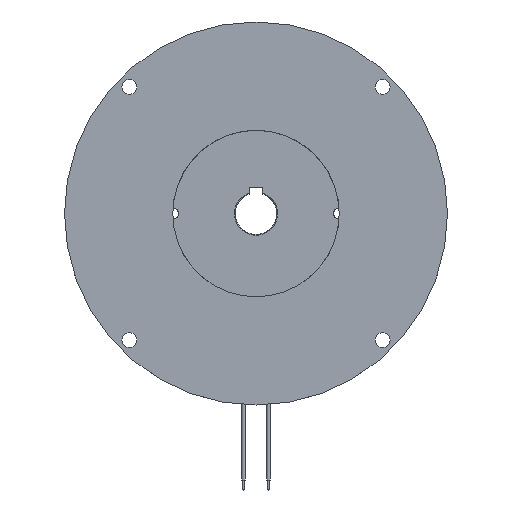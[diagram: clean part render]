
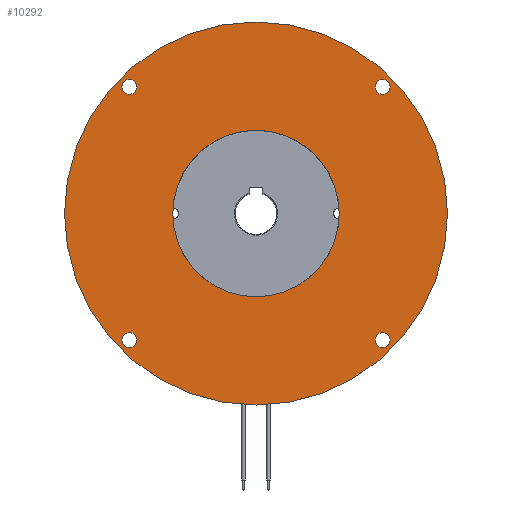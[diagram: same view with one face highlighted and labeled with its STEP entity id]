
A CAD part, top view. The second image highlights one B-rep face of the part: STEP entity #10292.
In plain terms, the highlighted planar face has unit normal (0, 0, 1).
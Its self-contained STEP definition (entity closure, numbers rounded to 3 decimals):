
#92 = AXIS2_PLACEMENT_3D ( 'NONE', #2051, #6117, #10062 ) ;
#132 = DIRECTION ( 'NONE',  ( 0., 0., -1. ) ) ;
#133 = EDGE_CURVE ( 'NONE', #2851, #1045, #3649, .T. ) ;
#188 = ORIENTED_EDGE ( 'NONE', *, *, #634, .T. ) ;
#270 = DIRECTION ( 'NONE',  ( -1., 0., 0. ) ) ;
#409 = FACE_BOUND ( 'NONE', #5838, .T. ) ;
#486 = CIRCLE ( 'NONE', #4517, 4.5 ) ;
#534 = ORIENTED_EDGE ( 'NONE', *, *, #2074, .T. ) ;
#634 = EDGE_CURVE ( 'NONE', #3907, #8531, #8546, .T. ) ;
#636 = AXIS2_PLACEMENT_3D ( 'NONE', #3032, #6217, #6162 ) ;
#840 = CARTESIAN_POINT ( 'NONE',  ( 71.514, 76.014, 0. ) ) ;
#872 = CARTESIAN_POINT ( 'NONE',  ( 76.014, 76.014, 0. ) ) ;
#1045 = VERTEX_POINT ( 'NONE', #840 ) ;
#1114 = ORIENTED_EDGE ( 'NONE', *, *, #7410, .T. ) ;
#1227 = EDGE_LOOP ( 'NONE', ( #9216, #5998 ) ) ;
#1262 = DIRECTION ( 'NONE',  ( 0., 0., -1. ) ) ;
#1486 = AXIS2_PLACEMENT_3D ( 'NONE', #872, #132, #10288 ) ;
#1509 = DIRECTION ( 'NONE',  ( 0., 0., -1. ) ) ;
#1558 = AXIS2_PLACEMENT_3D ( 'NONE', #10273, #6318, #4752 ) ;
#1767 = DIRECTION ( 'NONE',  ( 0., 0., -1. ) ) ;
#1794 = EDGE_CURVE ( 'NONE', #8531, #3907, #6464, .T. ) ;
#1832 = DIRECTION ( 'NONE',  ( 0., 0., -1. ) ) ;
#1877 = ORIENTED_EDGE ( 'NONE', *, *, #9311, .T. ) ;
#2051 = CARTESIAN_POINT ( 'NONE',  ( 0., 0., 0. ) ) ;
#2063 = CARTESIAN_POINT ( 'NONE',  ( -71.514, 76.014, 0. ) ) ;
#2074 = EDGE_CURVE ( 'NONE', #4491, #5318, #6937, .T. ) ;
#2141 = CIRCLE ( 'NONE', #4490, 4.5 ) ;
#2224 = CARTESIAN_POINT ( 'NONE',  ( -80.514, -76.014, 0. ) ) ;
#2344 = EDGE_LOOP ( 'NONE', ( #4286, #4888 ) ) ;
#2425 = ORIENTED_EDGE ( 'NONE', *, *, #7175, .T. ) ;
#2514 = EDGE_CURVE ( 'NONE', #5318, #4491, #8136, .T. ) ;
#2533 = VERTEX_POINT ( 'NONE', #7563 ) ;
#2647 = CARTESIAN_POINT ( 'NONE',  ( -115., 0., 0. ) ) ;
#2661 = EDGE_CURVE ( 'NONE', #10264, #2533, #2141, .T. ) ;
#2737 = DIRECTION ( 'NONE',  ( -1., 0., 0. ) ) ;
#2782 = CARTESIAN_POINT ( 'NONE',  ( 0., 0., 0. ) ) ;
#2851 = VERTEX_POINT ( 'NONE', #3560 ) ;
#2985 = DIRECTION ( 'NONE',  ( -1., 0., 0. ) ) ;
#3032 = CARTESIAN_POINT ( 'NONE',  ( 76.014, -76.014, 0. ) ) ;
#3091 = EDGE_CURVE ( 'NONE', #1045, #2851, #8456, .T. ) ;
#3338 = CIRCLE ( 'NONE', #9474, 4.5 ) ;
#3425 = AXIS2_PLACEMENT_3D ( 'NONE', #2782, #4398, #5188 ) ;
#3474 = DIRECTION ( 'NONE',  ( -1., 0., 0. ) ) ;
#3560 = CARTESIAN_POINT ( 'NONE',  ( 80.514, 76.014, 0. ) ) ;
#3649 = CIRCLE ( 'NONE', #1486, 4.5 ) ;
#3907 = VERTEX_POINT ( 'NONE', #8789 ) ;
#3920 = EDGE_LOOP ( 'NONE', ( #6274, #534 ) ) ;
#3989 = AXIS2_PLACEMENT_3D ( 'NONE', #5681, #1509, #9429 ) ;
#4266 = CARTESIAN_POINT ( 'NONE',  ( 80.514, -76.014, 0. ) ) ;
#4286 = ORIENTED_EDGE ( 'NONE', *, *, #3091, .T. ) ;
#4398 = DIRECTION ( 'NONE',  ( 0., 0., -1. ) ) ;
#4429 = EDGE_LOOP ( 'NONE', ( #1114, #2425 ) ) ;
#4490 = AXIS2_PLACEMENT_3D ( 'NONE', #10116, #10225, #8654 ) ;
#4491 = VERTEX_POINT ( 'NONE', #5340 ) ;
#4517 = AXIS2_PLACEMENT_3D ( 'NONE', #6062, #8442, #2985 ) ;
#4752 = DIRECTION ( 'NONE',  ( -1., 0., 0. ) ) ;
#4789 = AXIS2_PLACEMENT_3D ( 'NONE', #6708, #7378, #3474 ) ;
#4837 = CIRCLE ( 'NONE', #636, 4.5 ) ;
#4888 = ORIENTED_EDGE ( 'NONE', *, *, #133, .T. ) ;
#5005 = CARTESIAN_POINT ( 'NONE',  ( -50., 0., 0. ) ) ;
#5012 = DIRECTION ( 'NONE',  ( -1., 0., 0. ) ) ;
#5097 = CARTESIAN_POINT ( 'NONE',  ( 71.514, -76.014, 0. ) ) ;
#5188 = DIRECTION ( 'NONE',  ( -1., 0., 0. ) ) ;
#5318 = VERTEX_POINT ( 'NONE', #2224 ) ;
#5335 = DIRECTION ( 'NONE',  ( -1., 0., 0. ) ) ;
#5337 = CARTESIAN_POINT ( 'NONE',  ( 115., 0., 0. ) ) ;
#5340 = CARTESIAN_POINT ( 'NONE',  ( -71.514, -76.014, 0. ) ) ;
#5681 = CARTESIAN_POINT ( 'NONE',  ( 0., 0., 0. ) ) ;
#5838 = EDGE_LOOP ( 'NONE', ( #1877, #7936 ) ) ;
#5868 = FACE_BOUND ( 'NONE', #2344, .T. ) ;
#5992 = AXIS2_PLACEMENT_3D ( 'NONE', #9180, #9225, #5335 ) ;
#5998 = ORIENTED_EDGE ( 'NONE', *, *, #6532, .F. ) ;
#6062 = CARTESIAN_POINT ( 'NONE',  ( -76.014, 76.014, 0. ) ) ;
#6117 = DIRECTION ( 'NONE',  ( 0., 0., -1. ) ) ;
#6162 = DIRECTION ( 'NONE',  ( -1., 0., 0. ) ) ;
#6181 = VERTEX_POINT ( 'NONE', #4266 ) ;
#6217 = DIRECTION ( 'NONE',  ( 0., 0., -1. ) ) ;
#6274 = ORIENTED_EDGE ( 'NONE', *, *, #2514, .T. ) ;
#6318 = DIRECTION ( 'NONE',  ( 0., 0., -1. ) ) ;
#6464 = CIRCLE ( 'NONE', #92, 50. ) ;
#6480 = ORIENTED_EDGE ( 'NONE', *, *, #1794, .T. ) ;
#6532 = EDGE_CURVE ( 'NONE', #9335, #9100, #6749, .T. ) ;
#6708 = CARTESIAN_POINT ( 'NONE',  ( -76.014, -76.014, 0. ) ) ;
#6749 = CIRCLE ( 'NONE', #3425, 115. ) ;
#6937 = CIRCLE ( 'NONE', #4789, 4.5 ) ;
#7175 = EDGE_CURVE ( 'NONE', #6181, #9111, #4837, .T. ) ;
#7231 = EDGE_CURVE ( 'NONE', #9100, #9335, #8974, .T. ) ;
#7378 = DIRECTION ( 'NONE',  ( 0., 0., -1. ) ) ;
#7410 = EDGE_CURVE ( 'NONE', #9111, #6181, #3338, .T. ) ;
#7424 = FACE_OUTER_BOUND ( 'NONE', #1227, .T. ) ;
#7563 = CARTESIAN_POINT ( 'NONE',  ( -80.514, 76.014, 0. ) ) ;
#7576 = FACE_BOUND ( 'NONE', #4429, .T. ) ;
#7771 = EDGE_LOOP ( 'NONE', ( #6480, #188 ) ) ;
#7860 = AXIS2_PLACEMENT_3D ( 'NONE', #9863, #1262, #2737 ) ;
#7936 = ORIENTED_EDGE ( 'NONE', *, *, #2661, .T. ) ;
#8132 = CARTESIAN_POINT ( 'NONE',  ( 76.014, 76.014, 0. ) ) ;
#8136 = CIRCLE ( 'NONE', #5992, 4.5 ) ;
#8258 = FACE_BOUND ( 'NONE', #7771, .T. ) ;
#8327 = CARTESIAN_POINT ( 'NONE',  ( 76.014, -76.014, 0. ) ) ;
#8357 = FACE_BOUND ( 'NONE', #3920, .T. ) ;
#8442 = DIRECTION ( 'NONE',  ( 0., 0., -1. ) ) ;
#8456 = CIRCLE ( 'NONE', #8796, 4.5 ) ;
#8531 = VERTEX_POINT ( 'NONE', #5005 ) ;
#8546 = CIRCLE ( 'NONE', #1558, 50. ) ;
#8654 = DIRECTION ( 'NONE',  ( -1., 0., 0. ) ) ;
#8789 = CARTESIAN_POINT ( 'NONE',  ( 50., 0., 0. ) ) ;
#8796 = AXIS2_PLACEMENT_3D ( 'NONE', #8132, #1832, #5012 ) ;
#8974 = CIRCLE ( 'NONE', #3989, 115. ) ;
#9100 = VERTEX_POINT ( 'NONE', #2647 ) ;
#9111 = VERTEX_POINT ( 'NONE', #5097 ) ;
#9180 = CARTESIAN_POINT ( 'NONE',  ( -76.014, -76.014, 0. ) ) ;
#9194 = PLANE ( 'NONE',  #7860 ) ;
#9216 = ORIENTED_EDGE ( 'NONE', *, *, #7231, .F. ) ;
#9225 = DIRECTION ( 'NONE',  ( 0., 0., -1. ) ) ;
#9311 = EDGE_CURVE ( 'NONE', #2533, #10264, #486, .T. ) ;
#9335 = VERTEX_POINT ( 'NONE', #5337 ) ;
#9429 = DIRECTION ( 'NONE',  ( -1., 0., 0. ) ) ;
#9474 = AXIS2_PLACEMENT_3D ( 'NONE', #8327, #1767, #270 ) ;
#9863 = CARTESIAN_POINT ( 'NONE',  ( 0., 115., 0. ) ) ;
#10062 = DIRECTION ( 'NONE',  ( -1., 0., 0. ) ) ;
#10116 = CARTESIAN_POINT ( 'NONE',  ( -76.014, 76.014, 0. ) ) ;
#10225 = DIRECTION ( 'NONE',  ( 0., 0., -1. ) ) ;
#10264 = VERTEX_POINT ( 'NONE', #2063 ) ;
#10273 = CARTESIAN_POINT ( 'NONE',  ( 0., 0., 0. ) ) ;
#10288 = DIRECTION ( 'NONE',  ( -1., 0., 0. ) ) ;
#10292 = ADVANCED_FACE ( 'NONE', ( #5868, #7576, #8357, #409, #7424, #8258 ), #9194, .F. ) ;
